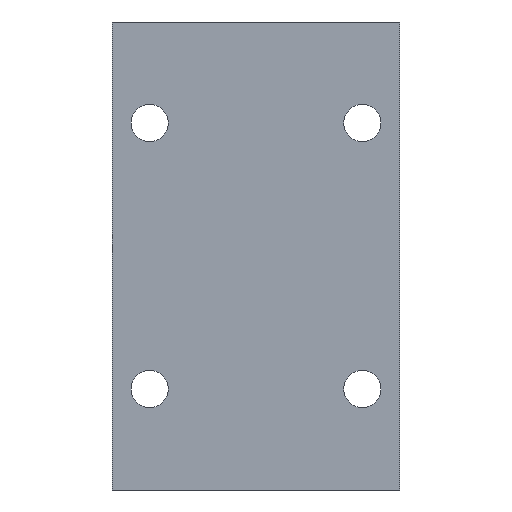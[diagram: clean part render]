
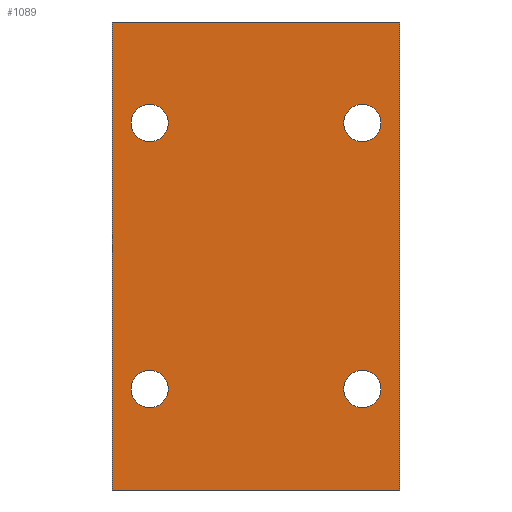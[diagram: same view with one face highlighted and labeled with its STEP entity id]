
A CAD part, front view. The second image highlights one B-rep face of the part: STEP entity #1089.
In plain terms, the highlighted planar face has unit normal (0, -1, 0).
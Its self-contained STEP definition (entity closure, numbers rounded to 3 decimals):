
#1 = CIRCLE ( 'NONE', #1945, 7. ) ;
#56 = EDGE_CURVE ( 'NONE', #1466, #486, #773, .T. ) ;
#60 = ORIENTED_EDGE ( 'NONE', *, *, #707, .T. ) ;
#67 = CIRCLE ( 'NONE', #685, 7. ) ;
#77 = DIRECTION ( 'NONE',  ( 1., 0., 0. ) ) ;
#82 = CARTESIAN_POINT ( 'NONE',  ( -54., -45., 88. ) ) ;
#94 = ORIENTED_EDGE ( 'NONE', *, *, #1638, .T. ) ;
#95 = FACE_OUTER_BOUND ( 'NONE', #1179, .T. ) ;
#99 = VERTEX_POINT ( 'NONE', #1789 ) ;
#101 = VERTEX_POINT ( 'NONE', #82 ) ;
#121 = DIRECTION ( 'NONE',  ( 0., 0., -1. ) ) ;
#133 = FACE_BOUND ( 'NONE', #2175, .T. ) ;
#162 = DIRECTION ( 'NONE',  ( 0., 0., -1. ) ) ;
#171 = LINE ( 'NONE', #373, #320 ) ;
#217 = EDGE_LOOP ( 'NONE', ( #1839, #1560 ) ) ;
#247 = CARTESIAN_POINT ( 'NONE',  ( 40., -45., -50. ) ) ;
#287 = CARTESIAN_POINT ( 'NONE',  ( 40., -45., -43. ) ) ;
#317 = AXIS2_PLACEMENT_3D ( 'NONE', #1506, #827, #2192 ) ;
#320 = VECTOR ( 'NONE', #1354, 1000. ) ;
#359 = AXIS2_PLACEMENT_3D ( 'NONE', #971, #1662, #2034 ) ;
#373 = CARTESIAN_POINT ( 'NONE',  ( -54., -45., -88. ) ) ;
#379 = ORIENTED_EDGE ( 'NONE', *, *, #1175, .F. ) ;
#397 = DIRECTION ( 'NONE',  ( 0., 0., -1. ) ) ;
#435 = DIRECTION ( 'NONE',  ( 0., -1., 0. ) ) ;
#469 = AXIS2_PLACEMENT_3D ( 'NONE', #1291, #1628, #121 ) ;
#475 = ORIENTED_EDGE ( 'NONE', *, *, #1678, .F. ) ;
#486 = VERTEX_POINT ( 'NONE', #2190 ) ;
#497 = ORIENTED_EDGE ( 'NONE', *, *, #1023, .F. ) ;
#500 = AXIS2_PLACEMENT_3D ( 'NONE', #1157, #435, #591 ) ;
#527 = ORIENTED_EDGE ( 'NONE', *, *, #56, .F. ) ;
#538 = VERTEX_POINT ( 'NONE', #1847 ) ;
#576 = AXIS2_PLACEMENT_3D ( 'NONE', #247, #725, #397 ) ;
#591 = DIRECTION ( 'NONE',  ( 0., 0., -1. ) ) ;
#649 = ORIENTED_EDGE ( 'NONE', *, *, #1798, .F. ) ;
#685 = AXIS2_PLACEMENT_3D ( 'NONE', #1215, #2227, #1376 ) ;
#702 = DIRECTION ( 'NONE',  ( 0., -1., 0. ) ) ;
#707 = EDGE_CURVE ( 'NONE', #1072, #486, #171, .T. ) ;
#725 = DIRECTION ( 'NONE',  ( 0., -1., 0. ) ) ;
#773 = LINE ( 'NONE', #1955, #2212 ) ;
#803 = FACE_BOUND ( 'NONE', #2043, .T. ) ;
#827 = DIRECTION ( 'NONE',  ( 0., 1., 0. ) ) ;
#843 = DIRECTION ( 'NONE',  ( 0., 0., -1. ) ) ;
#873 = AXIS2_PLACEMENT_3D ( 'NONE', #875, #2211, #162 ) ;
#875 = CARTESIAN_POINT ( 'NONE',  ( -40., -45., 50. ) ) ;
#933 = EDGE_CURVE ( 'NONE', #1370, #1426, #1367, .T. ) ;
#945 = ORIENTED_EDGE ( 'NONE', *, *, #1162, .F. ) ;
#968 = CARTESIAN_POINT ( 'NONE',  ( -40., -45., -43. ) ) ;
#971 = CARTESIAN_POINT ( 'NONE',  ( -40., -45., 50. ) ) ;
#982 = FACE_BOUND ( 'NONE', #217, .T. ) ;
#1023 = EDGE_CURVE ( 'NONE', #101, #1466, #1952, .T. ) ;
#1024 = CARTESIAN_POINT ( 'NONE',  ( 40., -45., 43. ) ) ;
#1034 = ORIENTED_EDGE ( 'NONE', *, *, #1949, .F. ) ;
#1072 = VERTEX_POINT ( 'NONE', #1458 ) ;
#1089 = ADVANCED_FACE ( 'NONE', ( #982, #1123, #803, #95, #133 ), #1807, .F. ) ;
#1113 = DIRECTION ( 'NONE',  ( 0., 0., -1. ) ) ;
#1114 = CIRCLE ( 'NONE', #873, 7. ) ;
#1119 = DIRECTION ( 'NONE',  ( 0., 0., -1. ) ) ;
#1123 = FACE_BOUND ( 'NONE', #2083, .T. ) ;
#1150 = CARTESIAN_POINT ( 'NONE',  ( -54., -45., 88. ) ) ;
#1152 = CIRCLE ( 'NONE', #500, 7. ) ;
#1157 = CARTESIAN_POINT ( 'NONE',  ( 40., -45., -50. ) ) ;
#1162 = EDGE_CURVE ( 'NONE', #2117, #538, #1648, .T. ) ;
#1175 = EDGE_CURVE ( 'NONE', #99, #2222, #67, .T. ) ;
#1179 = EDGE_LOOP ( 'NONE', ( #60, #527, #497, #94 ) ) ;
#1192 = VERTEX_POINT ( 'NONE', #1024 ) ;
#1210 = CARTESIAN_POINT ( 'NONE',  ( 40., -45., 50. ) ) ;
#1215 = CARTESIAN_POINT ( 'NONE',  ( -40., -45., -50. ) ) ;
#1222 = CARTESIAN_POINT ( 'NONE',  ( -40., -45., -50. ) ) ;
#1291 = CARTESIAN_POINT ( 'NONE',  ( 40., -45., 50. ) ) ;
#1354 = DIRECTION ( 'NONE',  ( 1., 0., 0. ) ) ;
#1367 = CIRCLE ( 'NONE', #576, 7. ) ;
#1370 = VERTEX_POINT ( 'NONE', #1925 ) ;
#1375 = VERTEX_POINT ( 'NONE', #1404 ) ;
#1376 = DIRECTION ( 'NONE',  ( 0., 0., -1. ) ) ;
#1404 = CARTESIAN_POINT ( 'NONE',  ( 40., -45., 57. ) ) ;
#1426 = VERTEX_POINT ( 'NONE', #287 ) ;
#1438 = ORIENTED_EDGE ( 'NONE', *, *, #1752, .F. ) ;
#1447 = EDGE_CURVE ( 'NONE', #1426, #1370, #1152, .T. ) ;
#1458 = CARTESIAN_POINT ( 'NONE',  ( -54., -45., -88. ) ) ;
#1466 = VERTEX_POINT ( 'NONE', #1670 ) ;
#1473 = VECTOR ( 'NONE', #1113, 1000. ) ;
#1488 = LINE ( 'NONE', #1150, #1473 ) ;
#1506 = CARTESIAN_POINT ( 'NONE',  ( -54., -45., 88. ) ) ;
#1560 = ORIENTED_EDGE ( 'NONE', *, *, #1447, .F. ) ;
#1579 = VECTOR ( 'NONE', #77, 1000. ) ;
#1628 = DIRECTION ( 'NONE',  ( 0., -1., 0. ) ) ;
#1638 = EDGE_CURVE ( 'NONE', #101, #1072, #1488, .T. ) ;
#1648 = CIRCLE ( 'NONE', #359, 7. ) ;
#1662 = DIRECTION ( 'NONE',  ( 0., -1., 0. ) ) ;
#1670 = CARTESIAN_POINT ( 'NONE',  ( 54., -45., 88. ) ) ;
#1678 = EDGE_CURVE ( 'NONE', #2222, #99, #1763, .T. ) ;
#1688 = DIRECTION ( 'NONE',  ( 0., 0., -1. ) ) ;
#1752 = EDGE_CURVE ( 'NONE', #1192, #1375, #1, .T. ) ;
#1763 = CIRCLE ( 'NONE', #2196, 7. ) ;
#1766 = CIRCLE ( 'NONE', #469, 7. ) ;
#1778 = CARTESIAN_POINT ( 'NONE',  ( -54., -45., 88. ) ) ;
#1789 = CARTESIAN_POINT ( 'NONE',  ( -40., -45., -57. ) ) ;
#1798 = EDGE_CURVE ( 'NONE', #538, #2117, #1114, .T. ) ;
#1807 = PLANE ( 'NONE',  #317 ) ;
#1839 = ORIENTED_EDGE ( 'NONE', *, *, #933, .F. ) ;
#1847 = CARTESIAN_POINT ( 'NONE',  ( -40., -45., 57. ) ) ;
#1872 = CARTESIAN_POINT ( 'NONE',  ( -40., -45., 43. ) ) ;
#1925 = CARTESIAN_POINT ( 'NONE',  ( 40., -45., -57. ) ) ;
#1945 = AXIS2_PLACEMENT_3D ( 'NONE', #1210, #2080, #1688 ) ;
#1949 = EDGE_CURVE ( 'NONE', #1375, #1192, #1766, .T. ) ;
#1952 = LINE ( 'NONE', #1778, #1579 ) ;
#1955 = CARTESIAN_POINT ( 'NONE',  ( 54., -45., 88. ) ) ;
#2034 = DIRECTION ( 'NONE',  ( 0., 0., -1. ) ) ;
#2043 = EDGE_LOOP ( 'NONE', ( #945, #649 ) ) ;
#2080 = DIRECTION ( 'NONE',  ( 0., -1., 0. ) ) ;
#2083 = EDGE_LOOP ( 'NONE', ( #379, #475 ) ) ;
#2117 = VERTEX_POINT ( 'NONE', #1872 ) ;
#2175 = EDGE_LOOP ( 'NONE', ( #1438, #1034 ) ) ;
#2190 = CARTESIAN_POINT ( 'NONE',  ( 54., -45., -88. ) ) ;
#2192 = DIRECTION ( 'NONE',  ( 0., 0., 1. ) ) ;
#2196 = AXIS2_PLACEMENT_3D ( 'NONE', #1222, #702, #843 ) ;
#2211 = DIRECTION ( 'NONE',  ( 0., -1., 0. ) ) ;
#2212 = VECTOR ( 'NONE', #1119, 1000. ) ;
#2222 = VERTEX_POINT ( 'NONE', #968 ) ;
#2227 = DIRECTION ( 'NONE',  ( 0., -1., 0. ) ) ;
